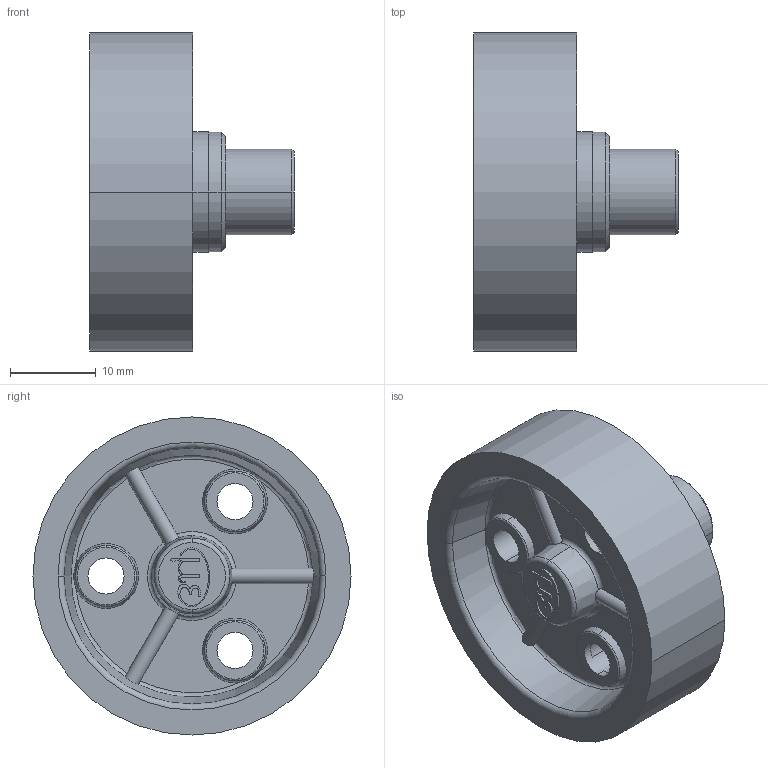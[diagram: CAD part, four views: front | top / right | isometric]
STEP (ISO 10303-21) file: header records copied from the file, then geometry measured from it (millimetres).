
FILE_DESCRIPTION((''),'2;1');
FILE_NAME('EU15_ASM','2008-09-19T',('11000205'),(''),'PRO/ENGINEER BY PARAMETRIC TECHNOLOGY CORPORATION, 2006460','PRO/ENGINEER BY PARAMETRIC TECHNOLOGY CORPORATION, 2006460','');
FILE_SCHEMA(('CONFIG_CONTROL_DESIGN'));
Length unit declared in the file: millimetre
Products named in the file (4): EU15; 0323120_; ME-SYMBOL1; EU15_ASM
Assembly tree (3 placements, depth 2):
  EU15_ASM
    EU15
    0323120_
    ME-SYMBOL1
Bounding box: 23.8 x 37 x 37 mm (x, y, z)
Volume: 10755.4 mm3; surface area: 7005.1 mm2
Topology: 6 solids, 74 shells, 703 faces, 1512 edges, 964 vertices
Faces by surface type: plane 349, cylinder 192, cone 95, torus 61, extrusion 6
Entity records: 19884 total; most frequent: CARTESIAN_POINT 4372, DIRECTION 3337, ORIENTED_EDGE 3008, EDGE_CURVE 1508, AXIS2_PLACEMENT_3D 1299, VERTEX_POINT 964, EDGE_LOOP 748, VECTOR 739
